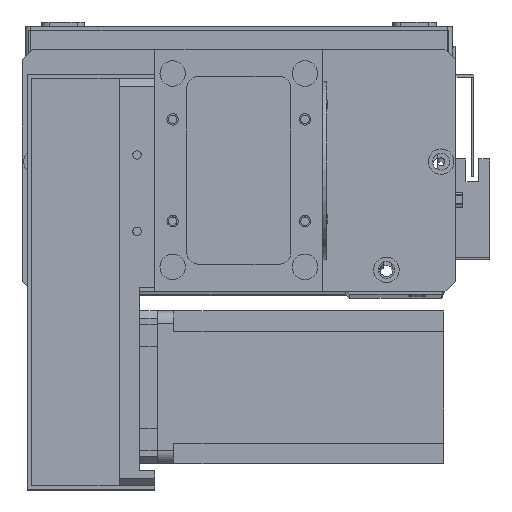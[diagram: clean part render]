
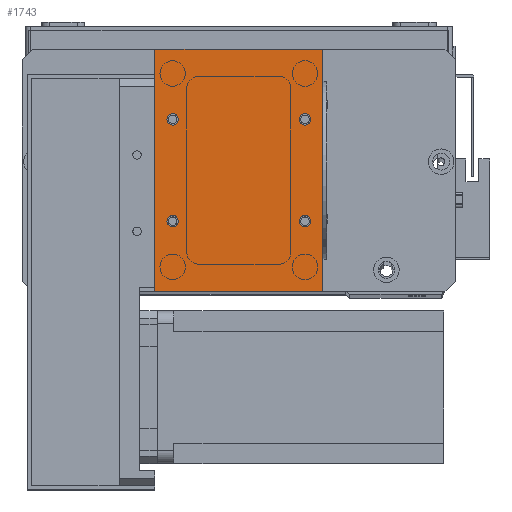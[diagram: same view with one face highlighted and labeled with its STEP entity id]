
A CAD part, top view. The second image highlights one B-rep face of the part: STEP entity #1743.
In plain terms, the highlighted planar face has unit normal (0, 0, 1).
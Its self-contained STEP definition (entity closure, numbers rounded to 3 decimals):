
#815 = LINE ( 'NONE', #3876, #6489 ) ;
#1013 = AXIS2_PLACEMENT_3D ( 'NONE', #16084, #1538, #18540 ) ;
#1529 = DIRECTION ( 'NONE',  ( 1., 0., 0. ) ) ;
#1538 = DIRECTION ( 'NONE',  ( 0., 0., 1. ) ) ;
#1743 = ADVANCED_FACE ( 'NONE', ( #18457, #24119, #31397, #17694, #11196 ), #20267, .F. ) ;
#1776 = CARTESIAN_POINT ( 'NONE',  ( 66., 95., 2. ) ) ;
#1974 = EDGE_LOOP ( 'NONE', ( #4725, #23703 ) ) ;
#1987 = CARTESIAN_POINT ( 'NONE',  ( 61.25, 67.5, 2. ) ) ;
#2006 = EDGE_CURVE ( 'NONE', #4737, #4213, #28709, .T. ) ;
#2126 = EDGE_LOOP ( 'NONE', ( #11025, #11716 ) ) ;
#2253 = CIRCLE ( 'NONE', #10130, 2.25 ) ;
#2269 = EDGE_CURVE ( 'NONE', #11667, #28754, #21828, .T. ) ;
#2864 = AXIS2_PLACEMENT_3D ( 'NONE', #18797, #4212, #21207 ) ;
#3149 = CIRCLE ( 'NONE', #1013, 2.25 ) ;
#3357 = CIRCLE ( 'NONE', #30675, 2.25 ) ;
#3876 = CARTESIAN_POINT ( 'NONE',  ( 0., 0., 2. ) ) ;
#3888 = CARTESIAN_POINT ( 'NONE',  ( 0., 0., 2. ) ) ;
#4138 = CARTESIAN_POINT ( 'NONE',  ( 7., 27.5, 2. ) ) ;
#4212 = DIRECTION ( 'NONE',  ( 0., 0., 1. ) ) ;
#4213 = VERTEX_POINT ( 'NONE', #18921 ) ;
#4725 = ORIENTED_EDGE ( 'NONE', *, *, #19215, .F. ) ;
#4737 = VERTEX_POINT ( 'NONE', #3888 ) ;
#4865 = AXIS2_PLACEMENT_3D ( 'NONE', #4138, #21141, #6574 ) ;
#5101 = DIRECTION ( 'NONE',  ( 1., 0., 0. ) ) ;
#5871 = EDGE_LOOP ( 'NONE', ( #15265, #12074 ) ) ;
#5933 = LINE ( 'NONE', #14267, #11653 ) ;
#6489 = VECTOR ( 'NONE', #13505, 1000. ) ;
#6511 = AXIS2_PLACEMENT_3D ( 'NONE', #12790, #29875, #15262 ) ;
#6574 = DIRECTION ( 'NONE',  ( 1., 0., 0. ) ) ;
#6608 = EDGE_CURVE ( 'NONE', #4213, #11667, #5933, .T. ) ;
#6723 = CARTESIAN_POINT ( 'NONE',  ( 59., 67.5, 2. ) ) ;
#6999 = CARTESIAN_POINT ( 'NONE',  ( 0., 0., 2. ) ) ;
#7548 = CARTESIAN_POINT ( 'NONE',  ( 7., 67.5, 2. ) ) ;
#7750 = VERTEX_POINT ( 'NONE', #26558 ) ;
#8372 = CARTESIAN_POINT ( 'NONE',  ( 0., 95., 2. ) ) ;
#8451 = ORIENTED_EDGE ( 'NONE', *, *, #17695, .F. ) ;
#8732 = CIRCLE ( 'NONE', #2864, 2.25 ) ;
#9173 = DIRECTION ( 'NONE',  ( 1., 0., 0. ) ) ;
#9829 = VERTEX_POINT ( 'NONE', #15473 ) ;
#10029 = DIRECTION ( 'NONE',  ( 1., 0., 0. ) ) ;
#10130 = AXIS2_PLACEMENT_3D ( 'NONE', #30662, #16069, #1529 ) ;
#10387 = CARTESIAN_POINT ( 'NONE',  ( 61.25, 27.5, 2. ) ) ;
#11006 = CARTESIAN_POINT ( 'NONE',  ( 9.25, 27.5, 2. ) ) ;
#11025 = ORIENTED_EDGE ( 'NONE', *, *, #27214, .F. ) ;
#11145 = DIRECTION ( 'NONE',  ( 0., 0., 1. ) ) ;
#11196 = FACE_OUTER_BOUND ( 'NONE', #28285, .T. ) ;
#11300 = EDGE_CURVE ( 'NONE', #21163, #29242, #16114, .T. ) ;
#11653 = VECTOR ( 'NONE', #11825, 1000. ) ;
#11667 = VERTEX_POINT ( 'NONE', #1776 ) ;
#11680 = VERTEX_POINT ( 'NONE', #1987 ) ;
#11716 = ORIENTED_EDGE ( 'NONE', *, *, #11300, .F. ) ;
#11825 = DIRECTION ( 'NONE',  ( 0., 1., 0. ) ) ;
#12074 = ORIENTED_EDGE ( 'NONE', *, *, #20288, .F. ) ;
#12214 = EDGE_CURVE ( 'NONE', #9829, #24432, #24022, .T. ) ;
#12567 = CARTESIAN_POINT ( 'NONE',  ( 56.75, 27.5, 2. ) ) ;
#12790 = CARTESIAN_POINT ( 'NONE',  ( 59., 27.5, 2. ) ) ;
#13505 = DIRECTION ( 'NONE',  ( 0., -1., 0. ) ) ;
#14267 = CARTESIAN_POINT ( 'NONE',  ( 66., 0., 2. ) ) ;
#14550 = EDGE_CURVE ( 'NONE', #7750, #11680, #3357, .T. ) ;
#14554 = AXIS2_PLACEMENT_3D ( 'NONE', #15672, #15454, #15358 ) ;
#15262 = DIRECTION ( 'NONE',  ( 1., 0., 0. ) ) ;
#15265 = ORIENTED_EDGE ( 'NONE', *, *, #12214, .F. ) ;
#15337 = VECTOR ( 'NONE', #28333, 1000. ) ;
#15358 = DIRECTION ( 'NONE',  ( -1., 0., 0. ) ) ;
#15454 = DIRECTION ( 'NONE',  ( 0., 0., -1. ) ) ;
#15473 = CARTESIAN_POINT ( 'NONE',  ( 9.25, 67.5, 2. ) ) ;
#15672 = CARTESIAN_POINT ( 'NONE',  ( 0., 0., 2. ) ) ;
#16069 = DIRECTION ( 'NONE',  ( 0., 0., 1. ) ) ;
#16084 = CARTESIAN_POINT ( 'NONE',  ( 7., 27.5, 2. ) ) ;
#16114 = CIRCLE ( 'NONE', #6511, 2.25 ) ;
#17049 = VERTEX_POINT ( 'NONE', #11006 ) ;
#17694 = FACE_BOUND ( 'NONE', #20957, .T. ) ;
#17695 = EDGE_CURVE ( 'NONE', #19353, #17049, #3149, .T. ) ;
#18223 = ORIENTED_EDGE ( 'NONE', *, *, #24951, .T. ) ;
#18457 = FACE_BOUND ( 'NONE', #5871, .T. ) ;
#18540 = DIRECTION ( 'NONE',  ( 1., 0., 0. ) ) ;
#18797 = CARTESIAN_POINT ( 'NONE',  ( 59., 67.5, 2. ) ) ;
#18921 = CARTESIAN_POINT ( 'NONE',  ( 66., 0., 2. ) ) ;
#19046 = ORIENTED_EDGE ( 'NONE', *, *, #2269, .T. ) ;
#19215 = EDGE_CURVE ( 'NONE', #11680, #7750, #8732, .T. ) ;
#19353 = VERTEX_POINT ( 'NONE', #29410 ) ;
#19515 = CARTESIAN_POINT ( 'NONE',  ( 4.75, 67.5, 2. ) ) ;
#20267 = PLANE ( 'NONE',  #14554 ) ;
#20288 = EDGE_CURVE ( 'NONE', #24432, #9829, #29241, .T. ) ;
#20957 = EDGE_LOOP ( 'NONE', ( #24290, #8451 ) ) ;
#21137 = CIRCLE ( 'NONE', #4865, 2.25 ) ;
#21141 = DIRECTION ( 'NONE',  ( 0., 0., 1. ) ) ;
#21163 = VERTEX_POINT ( 'NONE', #12567 ) ;
#21207 = DIRECTION ( 'NONE',  ( 1., 0., 0. ) ) ;
#21828 = LINE ( 'NONE', #28553, #15337 ) ;
#22231 = VECTOR ( 'NONE', #5101, 1000. ) ;
#23228 = AXIS2_PLACEMENT_3D ( 'NONE', #25689, #11145, #28166 ) ;
#23703 = ORIENTED_EDGE ( 'NONE', *, *, #14550, .F. ) ;
#23731 = DIRECTION ( 'NONE',  ( 0., 0., 1. ) ) ;
#24022 = CIRCLE ( 'NONE', #29166, 2.25 ) ;
#24119 = FACE_BOUND ( 'NONE', #1974, .T. ) ;
#24290 = ORIENTED_EDGE ( 'NONE', *, *, #28879, .F. ) ;
#24432 = VERTEX_POINT ( 'NONE', #19515 ) ;
#24569 = DIRECTION ( 'NONE',  ( 0., 0., 1. ) ) ;
#24951 = EDGE_CURVE ( 'NONE', #28754, #4737, #815, .T. ) ;
#25689 = CARTESIAN_POINT ( 'NONE',  ( 7., 67.5, 2. ) ) ;
#26558 = CARTESIAN_POINT ( 'NONE',  ( 56.75, 67.5, 2. ) ) ;
#27214 = EDGE_CURVE ( 'NONE', #29242, #21163, #2253, .T. ) ;
#28166 = DIRECTION ( 'NONE',  ( 1., 0., 0. ) ) ;
#28285 = EDGE_LOOP ( 'NONE', ( #18223, #28732, #29687, #19046 ) ) ;
#28333 = DIRECTION ( 'NONE',  ( -1., 0., 0. ) ) ;
#28553 = CARTESIAN_POINT ( 'NONE',  ( 0., 95., 2. ) ) ;
#28709 = LINE ( 'NONE', #6999, #22231 ) ;
#28732 = ORIENTED_EDGE ( 'NONE', *, *, #2006, .T. ) ;
#28754 = VERTEX_POINT ( 'NONE', #8372 ) ;
#28879 = EDGE_CURVE ( 'NONE', #17049, #19353, #21137, .T. ) ;
#29166 = AXIS2_PLACEMENT_3D ( 'NONE', #7548, #24569, #10029 ) ;
#29241 = CIRCLE ( 'NONE', #23228, 2.25 ) ;
#29242 = VERTEX_POINT ( 'NONE', #10387 ) ;
#29410 = CARTESIAN_POINT ( 'NONE',  ( 4.75, 27.5, 2. ) ) ;
#29687 = ORIENTED_EDGE ( 'NONE', *, *, #6608, .T. ) ;
#29875 = DIRECTION ( 'NONE',  ( 0., 0., 1. ) ) ;
#30662 = CARTESIAN_POINT ( 'NONE',  ( 59., 27.5, 2. ) ) ;
#30675 = AXIS2_PLACEMENT_3D ( 'NONE', #6723, #23731, #9173 ) ;
#31397 = FACE_BOUND ( 'NONE', #2126, .T. ) ;
